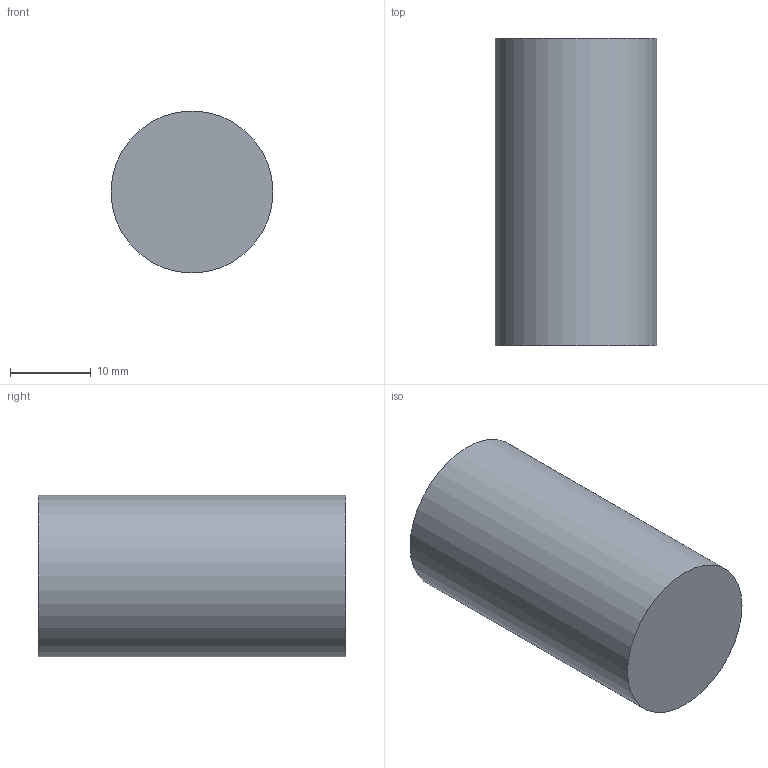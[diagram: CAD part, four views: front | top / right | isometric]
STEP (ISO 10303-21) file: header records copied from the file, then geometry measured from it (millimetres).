
FILE_DESCRIPTION(('STEP AP242'), '1');
FILE_NAME('ﾖ齏竟蓿韭', '', ('UNSPECIFIED'), ('UNSPECIFIED'), 'C3D Converter', 'C3D Toolkit', '');
FILE_SCHEMA(('AP242_MANAGED_MODEL_BASED_3D_ENGINEERING_MIM_LF { 1 0 10303 442 1 1 4 }'));
Length unit declared in the file: millimetre
Bounding box: 20 x 38 x 20 mm (x, y, z)
Volume: 11938.1 mm3; surface area: 3015.9 mm2
Topology: 1 solids, 1 shells, 3 faces, 3 edges, 2 vertices
Faces by surface type: plane 2, cylinder 1
Full cylindrical faces by diameter (mm): 20 x1
Entity records: 94 total; most frequent: DIRECTION 12, CARTESIAN_POINT 8, AXIS2_PLACEMENT_3D 6, EDGE_LOOP 4, ORIENTED_EDGE 4, ADVANCED_FACE 3, DATE_AND_TIME 2, CALENDAR_DATE 2
